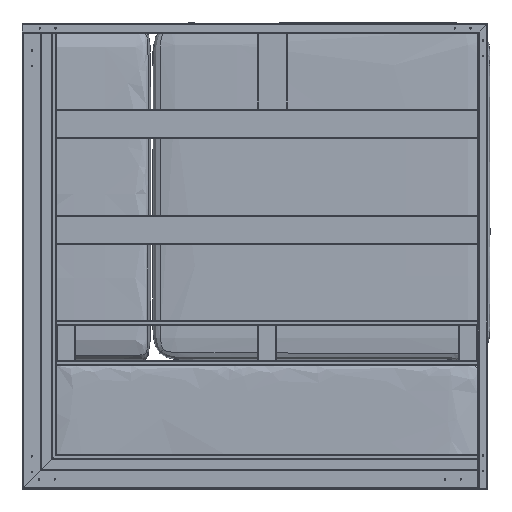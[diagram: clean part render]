
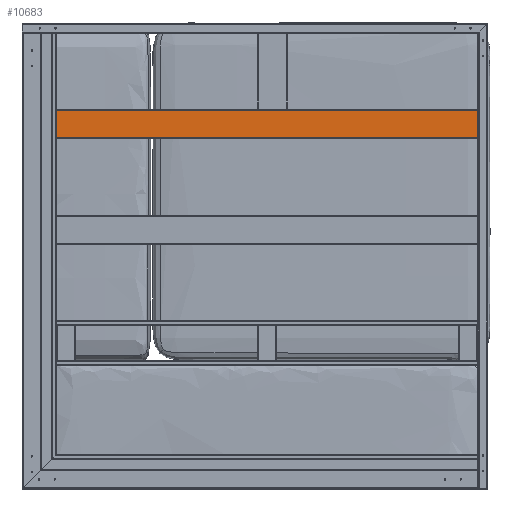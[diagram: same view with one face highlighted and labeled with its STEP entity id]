
A CAD part, front view. The second image highlights one B-rep face of the part: STEP entity #10683.
In plain terms, the highlighted planar face has unit normal (0, -1, 0) as drawn and (1, 0, 0) by its records, which use the part's own axes.
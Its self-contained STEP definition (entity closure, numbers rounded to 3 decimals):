
#475=PLANE('',#12116);
#1042=LINE('',#24579,#2030);
#1043=LINE('',#24581,#2031);
#1044=LINE('',#24583,#2032);
#1045=LINE('',#24584,#2033);
#2030=VECTOR('',#14088,10.);
#2031=VECTOR('',#14089,10.);
#2032=VECTOR('',#14090,10.);
#2033=VECTOR('',#14091,10.);
#3691=FACE_OUTER_BOUND('',#4313,.T.);
#4313=EDGE_LOOP('',(#8553,#8554,#8555,#8556));
#5167=VERTEX_POINT('',#24577);
#5168=VERTEX_POINT('',#24578);
#5169=VERTEX_POINT('',#24580);
#5170=VERTEX_POINT('',#24582);
#6402=EDGE_CURVE('',#5167,#5168,#1042,.T.);
#6403=EDGE_CURVE('',#5169,#5168,#1043,.T.);
#6404=EDGE_CURVE('',#5170,#5169,#1044,.T.);
#6405=EDGE_CURVE('',#5170,#5167,#1045,.T.);
#8553=ORIENTED_EDGE('',*,*,#6402,.T.);
#8554=ORIENTED_EDGE('',*,*,#6403,.F.);
#8555=ORIENTED_EDGE('',*,*,#6404,.F.);
#8556=ORIENTED_EDGE('',*,*,#6405,.T.);
#10683=ADVANCED_FACE('',(#3691),#475,.T.);
#12116=AXIS2_PLACEMENT_3D('',#24576,#14086,#14087);
#14086=DIRECTION('center_axis',(1.,0.,0.));
#14087=DIRECTION('ref_axis',(0.,0.,-1.));
#14088=DIRECTION('',(0.,-1.,0.));
#14089=DIRECTION('',(0.,0.,1.));
#14090=DIRECTION('',(0.,-1.,0.));
#14091=DIRECTION('',(0.,0.,1.));
#24576=CARTESIAN_POINT('Origin',(5.,27.75,0.));
#24577=CARTESIAN_POINT('',(5.,27.75,880.));
#24578=CARTESIAN_POINT('',(5.,-27.75,880.));
#24579=CARTESIAN_POINT('',(5.,13.875,880.));
#24580=CARTESIAN_POINT('',(5.,-27.75,20.));
#24581=CARTESIAN_POINT('',(5.,-27.75,0.));
#24582=CARTESIAN_POINT('',(5.,27.75,20.));
#24583=CARTESIAN_POINT('',(5.,13.875,20.));
#24584=CARTESIAN_POINT('',(5.,27.75,0.));
